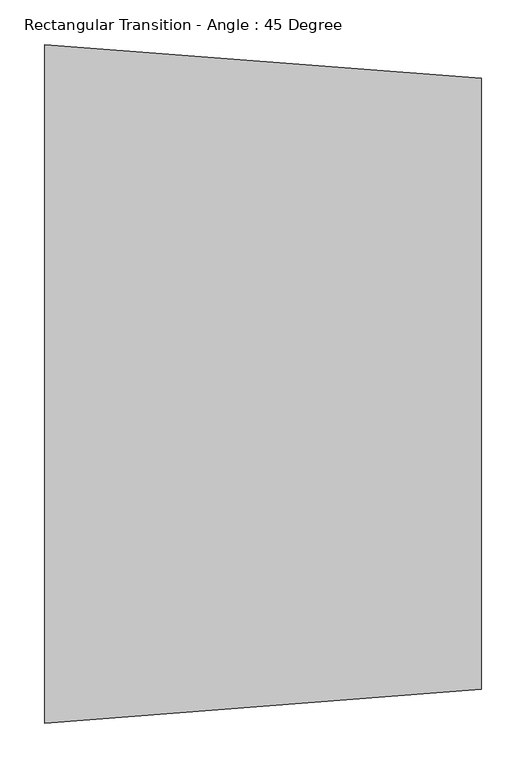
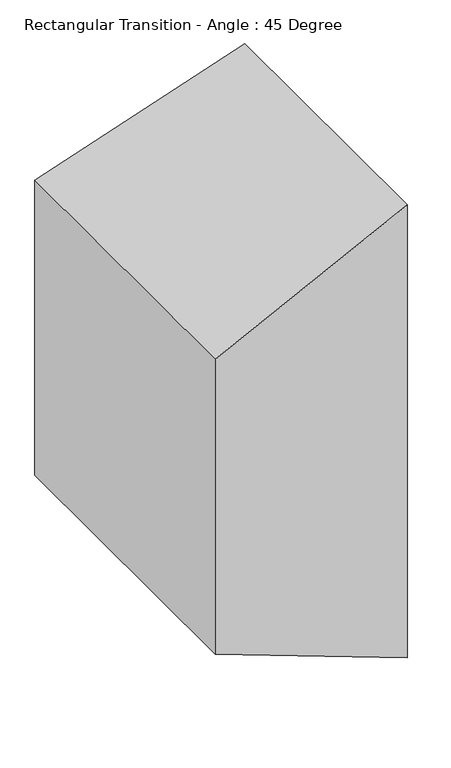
"""IFC4 building model written with IfcOpenShell, lengths in millimetres: duct fitting geometry, Rectangular Transition - Angle : 45 Degree."""

from ifc_helpers import new_model, si_unit, origin, place, context, project, spatial, faceted_brep, source, transform, mapped, element, save


def rectangular_transition_angle_45_degree_6e3a2386(model_context):
    return source(origin(), model_context, "Body", "Brep", [
        faceted_brep([(490.5681959, -342.9, 584.2), (490.5681959, -342.9, -584.2), (490.5681959, 342.9, -584.2), (490.5681959, 342.9, 584.2), (0.0, -381.0, 381.0), (0.0, 381.0, 381.0), (0.0, 381.0, -381.0), (0.0, -381.0, -381.0)], [[[0, 1, 2, 3]], [[4, 5, 6, 7]], [[4, 7, 1, 0]], [[7, 6, 2, 1]], [[6, 5, 3, 2]], [[5, 4, 0, 3]]]),
    ])


if __name__ == "__main__":
    model = new_model("IFC4")
    model_context = context("Model", 3, world=origin())
    ifc_project = project(units=[si_unit("LENGTHUNIT", "METRE", prefix="MILLI")], contexts=[model_context])
    site = spatial("IfcSite", under=ifc_project)
    building = spatial("IfcBuilding", under=site)
    placement = place(None, origin())
    rectangular_transition_angle_45_degree_shape = rectangular_transition_angle_45_degree_6e3a2386(model_context)
    element("IfcDuctFitting", 1, ObjectType="Rectangular Transition - Angle : 45 Degree", at=placement, inside=building, context=model_context, shape_type="MappedRepresentation", body=[
        mapped(rectangular_transition_angle_45_degree_shape, transform((0.0, 0.0, 0.0), x_axis=(1.0, 0.0, 0.0), y_axis=(0.0, 1.0, 0.0), z_axis=(0.0, 0.0, 1.0))),
    ])
    save(model, "model.ifc")
